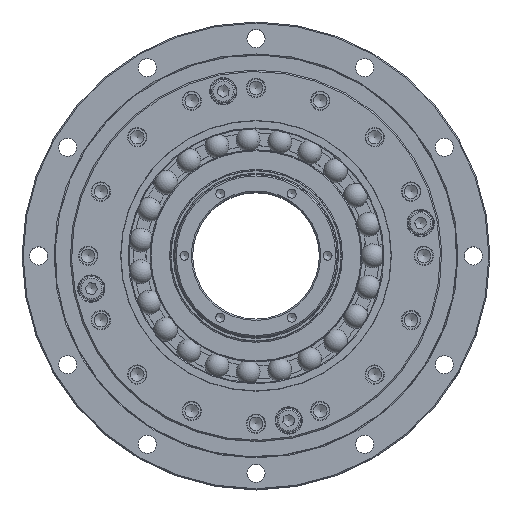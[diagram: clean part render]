
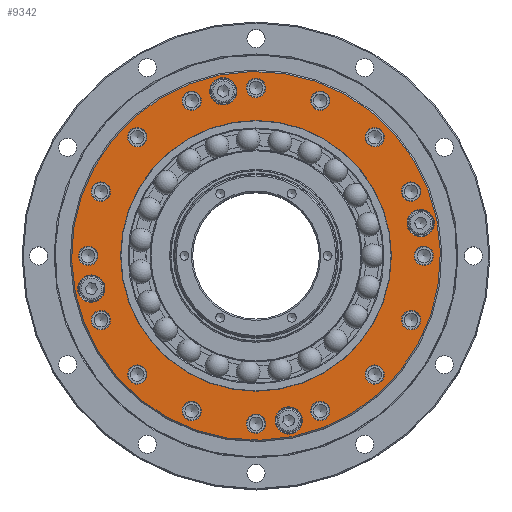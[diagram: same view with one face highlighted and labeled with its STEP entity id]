
A CAD part, top view. The second image highlights one B-rep face of the part: STEP entity #9342.
In plain terms, the highlighted planar face has unit normal (0, 0, 1).
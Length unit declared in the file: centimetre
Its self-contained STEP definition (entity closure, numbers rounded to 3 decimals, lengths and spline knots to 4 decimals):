
#942=FACE_BOUND($,#3087,.T.);
#943=FACE_BOUND($,#3088,.T.);
#944=FACE_BOUND($,#3089,.T.);
#945=FACE_BOUND($,#3090,.T.);
#946=FACE_BOUND($,#3091,.T.);
#947=FACE_BOUND($,#3092,.T.);
#948=FACE_BOUND($,#3093,.T.);
#949=FACE_BOUND($,#3094,.T.);
#950=FACE_BOUND($,#3095,.T.);
#951=FACE_BOUND($,#3096,.T.);
#952=FACE_BOUND($,#3097,.T.);
#953=FACE_BOUND($,#3098,.T.);
#954=FACE_BOUND($,#3099,.T.);
#955=FACE_BOUND($,#3100,.T.);
#956=FACE_BOUND($,#3101,.T.);
#957=FACE_BOUND($,#3102,.T.);
#958=FACE_BOUND($,#3103,.T.);
#959=FACE_BOUND($,#3104,.T.);
#960=FACE_BOUND($,#3105,.T.);
#961=FACE_BOUND($,#3106,.T.);
#962=FACE_BOUND($,#3107,.T.);
#963=FACE_BOUND($,#3108,.T.);
#3087=EDGE_LOOP($,(#8051));
#3088=EDGE_LOOP($,(#8052));
#3089=EDGE_LOOP($,(#8053));
#3090=EDGE_LOOP($,(#8054));
#3091=EDGE_LOOP($,(#8055));
#3092=EDGE_LOOP($,(#8056));
#3093=EDGE_LOOP($,(#8057));
#3094=EDGE_LOOP($,(#8058));
#3095=EDGE_LOOP($,(#8059));
#3096=EDGE_LOOP($,(#8060));
#3097=EDGE_LOOP($,(#8061));
#3098=EDGE_LOOP($,(#8062));
#3099=EDGE_LOOP($,(#8063));
#3100=EDGE_LOOP($,(#8064));
#3101=EDGE_LOOP($,(#8065));
#3102=EDGE_LOOP($,(#8066));
#3103=EDGE_LOOP($,(#8067));
#3104=EDGE_LOOP($,(#8068));
#3105=EDGE_LOOP($,(#8069));
#3106=EDGE_LOOP($,(#8070));
#3107=EDGE_LOOP($,(#8071));
#3108=EDGE_LOOP($,(#8072));
#4116=CIRCLE($,#10485,6.7);
#4134=CIRCLE($,#10521,0.495);
#4136=CIRCLE($,#10525,0.35);
#4138=CIRCLE($,#10529,0.35);
#4140=CIRCLE($,#10533,0.35);
#4142=CIRCLE($,#10537,0.35);
#4144=CIRCLE($,#10541,0.495);
#4146=CIRCLE($,#10545,0.35);
#4148=CIRCLE($,#10549,0.35);
#4150=CIRCLE($,#10553,0.35);
#4152=CIRCLE($,#10557,0.35);
#4154=CIRCLE($,#10561,0.495);
#4156=CIRCLE($,#10565,0.35);
#4158=CIRCLE($,#10569,0.35);
#4160=CIRCLE($,#10573,0.35);
#4162=CIRCLE($,#10577,0.35);
#4164=CIRCLE($,#10581,0.495);
#4166=CIRCLE($,#10585,0.35);
#4168=CIRCLE($,#10589,0.35);
#4170=CIRCLE($,#10593,0.35);
#4172=CIRCLE($,#10597,4.9189);
#4173=CIRCLE($,#10598,0.35);
#4908=VERTEX_POINT($,#16335);
#4926=VERTEX_POINT($,#16389);
#4928=VERTEX_POINT($,#16395);
#4930=VERTEX_POINT($,#16401);
#4932=VERTEX_POINT($,#16407);
#4934=VERTEX_POINT($,#16413);
#4936=VERTEX_POINT($,#16419);
#4938=VERTEX_POINT($,#16425);
#4940=VERTEX_POINT($,#16431);
#4942=VERTEX_POINT($,#16437);
#4944=VERTEX_POINT($,#16443);
#4946=VERTEX_POINT($,#16449);
#4948=VERTEX_POINT($,#16455);
#4950=VERTEX_POINT($,#16461);
#4952=VERTEX_POINT($,#16467);
#4954=VERTEX_POINT($,#16473);
#4956=VERTEX_POINT($,#16479);
#4958=VERTEX_POINT($,#16485);
#4960=VERTEX_POINT($,#16491);
#4962=VERTEX_POINT($,#16497);
#4964=VERTEX_POINT($,#16503);
#4965=VERTEX_POINT($,#16505);
#6012=EDGE_CURVE($,#4908,#4908,#4116,.T.);
#6030=EDGE_CURVE($,#4926,#4926,#4134,.T.);
#6032=EDGE_CURVE($,#4928,#4928,#4136,.T.);
#6034=EDGE_CURVE($,#4930,#4930,#4138,.T.);
#6036=EDGE_CURVE($,#4932,#4932,#4140,.T.);
#6038=EDGE_CURVE($,#4934,#4934,#4142,.T.);
#6040=EDGE_CURVE($,#4936,#4936,#4144,.T.);
#6042=EDGE_CURVE($,#4938,#4938,#4146,.T.);
#6044=EDGE_CURVE($,#4940,#4940,#4148,.T.);
#6046=EDGE_CURVE($,#4942,#4942,#4150,.T.);
#6048=EDGE_CURVE($,#4944,#4944,#4152,.T.);
#6050=EDGE_CURVE($,#4946,#4946,#4154,.T.);
#6052=EDGE_CURVE($,#4948,#4948,#4156,.T.);
#6054=EDGE_CURVE($,#4950,#4950,#4158,.T.);
#6056=EDGE_CURVE($,#4952,#4952,#4160,.T.);
#6058=EDGE_CURVE($,#4954,#4954,#4162,.T.);
#6060=EDGE_CURVE($,#4956,#4956,#4164,.T.);
#6062=EDGE_CURVE($,#4958,#4958,#4166,.T.);
#6064=EDGE_CURVE($,#4960,#4960,#4168,.T.);
#6066=EDGE_CURVE($,#4962,#4962,#4170,.T.);
#6068=EDGE_CURVE($,#4964,#4964,#4172,.T.);
#6069=EDGE_CURVE($,#4965,#4965,#4173,.T.);
#8051=ORIENTED_EDGE($,*,*,#6068,.T.);
#8052=ORIENTED_EDGE($,*,*,#6066,.F.);
#8053=ORIENTED_EDGE($,*,*,#6062,.F.);
#8054=ORIENTED_EDGE($,*,*,#6058,.F.);
#8055=ORIENTED_EDGE($,*,*,#6054,.F.);
#8056=ORIENTED_EDGE($,*,*,#6050,.F.);
#8057=ORIENTED_EDGE($,*,*,#6046,.F.);
#8058=ORIENTED_EDGE($,*,*,#6042,.F.);
#8059=ORIENTED_EDGE($,*,*,#6038,.F.);
#8060=ORIENTED_EDGE($,*,*,#6034,.F.);
#8061=ORIENTED_EDGE($,*,*,#6030,.F.);
#8062=ORIENTED_EDGE($,*,*,#6012,.F.);
#8063=ORIENTED_EDGE($,*,*,#6032,.F.);
#8064=ORIENTED_EDGE($,*,*,#6036,.F.);
#8065=ORIENTED_EDGE($,*,*,#6040,.F.);
#8066=ORIENTED_EDGE($,*,*,#6044,.F.);
#8067=ORIENTED_EDGE($,*,*,#6048,.F.);
#8068=ORIENTED_EDGE($,*,*,#6052,.F.);
#8069=ORIENTED_EDGE($,*,*,#6056,.F.);
#8070=ORIENTED_EDGE($,*,*,#6060,.F.);
#8071=ORIENTED_EDGE($,*,*,#6064,.F.);
#8072=ORIENTED_EDGE($,*,*,#6069,.F.);
#8848=PLANE($,#10596);
#9342=ADVANCED_FACE($,(#942,#943,#944,#945,#946,#947,#948,#949,#950,#951,
#952,#953,#954,#955,#956,#957,#958,#959,#960,#961,#962,#963),#8848,.T.);
#10485=AXIS2_PLACEMENT_3D($,#16336,#12966,#12967);
#10521=AXIS2_PLACEMENT_3D($,#16390,#13038,#13039);
#10525=AXIS2_PLACEMENT_3D($,#16396,#13046,#13047);
#10529=AXIS2_PLACEMENT_3D($,#16402,#13054,#13055);
#10533=AXIS2_PLACEMENT_3D($,#16408,#13062,#13063);
#10537=AXIS2_PLACEMENT_3D($,#16414,#13070,#13071);
#10541=AXIS2_PLACEMENT_3D($,#16420,#13078,#13079);
#10545=AXIS2_PLACEMENT_3D($,#16426,#13086,#13087);
#10549=AXIS2_PLACEMENT_3D($,#16432,#13094,#13095);
#10553=AXIS2_PLACEMENT_3D($,#16438,#13102,#13103);
#10557=AXIS2_PLACEMENT_3D($,#16444,#13110,#13111);
#10561=AXIS2_PLACEMENT_3D($,#16450,#13118,#13119);
#10565=AXIS2_PLACEMENT_3D($,#16456,#13126,#13127);
#10569=AXIS2_PLACEMENT_3D($,#16462,#13134,#13135);
#10573=AXIS2_PLACEMENT_3D($,#16468,#13142,#13143);
#10577=AXIS2_PLACEMENT_3D($,#16474,#13150,#13151);
#10581=AXIS2_PLACEMENT_3D($,#16480,#13158,#13159);
#10585=AXIS2_PLACEMENT_3D($,#16486,#13166,#13167);
#10589=AXIS2_PLACEMENT_3D($,#16492,#13174,#13175);
#10593=AXIS2_PLACEMENT_3D($,#16498,#13182,#13183);
#10596=AXIS2_PLACEMENT_3D($,#16502,#13188,#13189);
#10597=AXIS2_PLACEMENT_3D($,#16504,#13190,#13191);
#10598=AXIS2_PLACEMENT_3D($,#16506,#13192,#13193);
#12966=DIRECTION('center_axis',(0.,0.,-1.));
#12967=DIRECTION('ref_axis',(-0.981,-0.195,0.));
#13038=DIRECTION('center_axis',(0.,0.,1.));
#13039=DIRECTION('ref_axis',(-0.195,0.981,0.));
#13046=DIRECTION('center_axis',(0.,0.,1.));
#13047=DIRECTION('ref_axis',(-0.195,0.981,0.));
#13054=DIRECTION('center_axis',(0.,0.,1.));
#13055=DIRECTION('ref_axis',(-0.195,0.981,0.));
#13062=DIRECTION('center_axis',(0.,0.,1.));
#13063=DIRECTION('ref_axis',(-0.195,0.981,0.));
#13070=DIRECTION('center_axis',(0.,0.,1.));
#13071=DIRECTION('ref_axis',(-0.195,0.981,0.));
#13078=DIRECTION('center_axis',(0.,0.,1.));
#13079=DIRECTION('ref_axis',(-0.195,0.981,0.));
#13086=DIRECTION('center_axis',(0.,0.,1.));
#13087=DIRECTION('ref_axis',(-0.195,0.981,0.));
#13094=DIRECTION('center_axis',(0.,0.,1.));
#13095=DIRECTION('ref_axis',(-0.195,0.981,0.));
#13102=DIRECTION('center_axis',(0.,0.,1.));
#13103=DIRECTION('ref_axis',(-0.195,0.981,0.));
#13110=DIRECTION('center_axis',(0.,0.,1.));
#13111=DIRECTION('ref_axis',(-0.195,0.981,0.));
#13118=DIRECTION('center_axis',(0.,0.,1.));
#13119=DIRECTION('ref_axis',(-0.195,0.981,0.));
#13126=DIRECTION('center_axis',(0.,0.,1.));
#13127=DIRECTION('ref_axis',(-0.195,0.981,0.));
#13134=DIRECTION('center_axis',(0.,0.,1.));
#13135=DIRECTION('ref_axis',(-0.195,0.981,0.));
#13142=DIRECTION('center_axis',(0.,0.,1.));
#13143=DIRECTION('ref_axis',(-0.195,0.981,0.));
#13150=DIRECTION('center_axis',(0.,0.,1.));
#13151=DIRECTION('ref_axis',(-0.195,0.981,0.));
#13158=DIRECTION('center_axis',(0.,0.,1.));
#13159=DIRECTION('ref_axis',(-0.195,0.981,0.));
#13166=DIRECTION('center_axis',(0.,0.,1.));
#13167=DIRECTION('ref_axis',(-0.195,0.981,0.));
#13174=DIRECTION('center_axis',(0.,0.,1.));
#13175=DIRECTION('ref_axis',(-0.195,0.981,0.));
#13182=DIRECTION('center_axis',(0.,0.,1.));
#13183=DIRECTION('ref_axis',(-0.195,0.981,0.));
#13188=DIRECTION('center_axis',(0.,0.,1.));
#13189=DIRECTION('ref_axis',(0.195,-0.981,0.));
#13190=DIRECTION('center_axis',(0.,0.,
-1.));
#13191=DIRECTION('ref_axis',(1.,0.,0.));
#13192=DIRECTION('center_axis',(0.,0.,1.));
#13193=DIRECTION('ref_axis',(-0.195,0.981,0.));
#16335=CARTESIAN_POINT('',(6.5713,1.3071,4.55));
#16336=CARTESIAN_POINT('Origin',(0.,0.,4.55));
#16389=CARTESIAN_POINT('',(-5.8862,-1.6755,4.55));
#16390=CARTESIAN_POINT('Origin',(-5.9828,-1.1901,4.55));
#16395=CARTESIAN_POINT('',(-5.5674,-2.6776,4.55));
#16396=CARTESIAN_POINT('Origin',(-5.6357,-2.3344,4.55));
#16401=CARTESIAN_POINT('',(-4.2451,-4.6566,4.55));
#16402=CARTESIAN_POINT('Origin',(-4.3134,-4.3134,4.55));
#16407=CARTESIAN_POINT('',(-2.2661,-5.9789,4.55));
#16408=CARTESIAN_POINT('Origin',(-2.3344,-5.6357,4.55));
#16413=CARTESIAN_POINT('',(0.0683,-6.4433,4.55));
#16414=CARTESIAN_POINT('Origin',(0.,-6.1,4.55));
#16419=CARTESIAN_POINT('',(1.2866,-6.4683,4.55));
#16420=CARTESIAN_POINT('Origin',(1.1901,-5.9828,4.55));
#16425=CARTESIAN_POINT('',(2.4027,-5.9789,4.55));
#16426=CARTESIAN_POINT('Origin',(2.3344,-5.6357,4.55));
#16431=CARTESIAN_POINT('',(4.3816,-4.6566,4.55));
#16432=CARTESIAN_POINT('Origin',(4.3134,-4.3134,4.55));
#16437=CARTESIAN_POINT('',(5.7039,-2.6776,4.55));
#16438=CARTESIAN_POINT('Origin',(5.6357,-2.3344,4.55));
#16443=CARTESIAN_POINT('',(6.1683,-0.3433,4.55));
#16444=CARTESIAN_POINT('Origin',(6.1,0.,4.55));
#16449=CARTESIAN_POINT('',(6.0794,0.7046,4.55));
#16450=CARTESIAN_POINT('Origin',(5.9828,1.1901,4.55));
#16455=CARTESIAN_POINT('',(5.7039,1.9911,4.55));
#16456=CARTESIAN_POINT('Origin',(5.6357,2.3344,4.55));
#16461=CARTESIAN_POINT('',(4.3816,3.9701,4.55));
#16462=CARTESIAN_POINT('Origin',(4.3134,4.3134,4.55));
#16467=CARTESIAN_POINT('',(2.4027,5.2924,4.55));
#16468=CARTESIAN_POINT('Origin',(2.3344,5.6357,4.55));
#16473=CARTESIAN_POINT('',(0.0683,5.7567,4.55));
#16474=CARTESIAN_POINT('Origin',(0.,6.1,4.55));
#16479=CARTESIAN_POINT('',(-1.0935,5.4973,4.55));
#16480=CARTESIAN_POINT('Origin',(-1.1901,5.9828,4.55));
#16485=CARTESIAN_POINT('',(-2.2661,5.2924,4.55));
#16486=CARTESIAN_POINT('Origin',(-2.3344,5.6357,4.55));
#16491=CARTESIAN_POINT('',(-4.2451,3.9701,4.55));
#16492=CARTESIAN_POINT('Origin',(-4.3134,4.3134,4.55));
#16497=CARTESIAN_POINT('',(-5.5674,1.9911,4.55));
#16498=CARTESIAN_POINT('Origin',(-5.6357,2.3344,4.55));
#16502=CARTESIAN_POINT('Origin',(6.6301,1.3188,4.55));
#16503=CARTESIAN_POINT('',(0.,4.9189,4.55));
#16504=CARTESIAN_POINT('Origin',(0.,0.,
4.55));
#16505=CARTESIAN_POINT('',(-6.0317,-0.3433,4.55));
#16506=CARTESIAN_POINT('Origin',(-6.1,0.,4.55));
